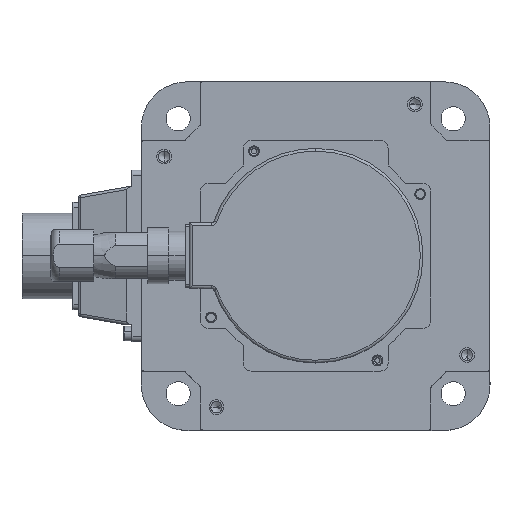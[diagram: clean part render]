
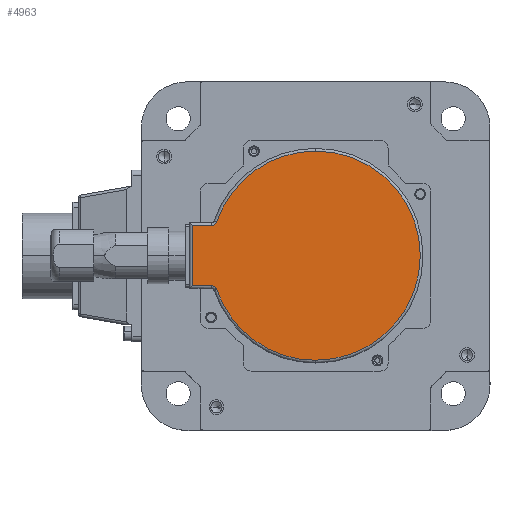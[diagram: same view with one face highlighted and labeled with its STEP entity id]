
A CAD part, top view. The second image highlights one B-rep face of the part: STEP entity #4963.
In plain terms, the highlighted planar face has unit normal (0, 0, 1) as drawn and (-1, 0, 0) by its records, which use the part's own axes.
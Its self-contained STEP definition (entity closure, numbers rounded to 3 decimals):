
#4649 = CARTESIAN_POINT ( 'NONE',  ( -20., 38.8, 11.25 ) ) ;
#4963 = ADVANCED_FACE ( 'NONE', ( #58034 ), #52561, .T. ) ;
#5417 = DIRECTION ( 'NONE',  ( 0., 0., 1. ) ) ;
#6122 = VERTEX_POINT ( 'NONE', #27576 ) ;
#6123 = DIRECTION ( 'NONE',  ( 0., 0., 1. ) ) ;
#6159 = DIRECTION ( 'NONE',  ( -1., 0., 0. ) ) ;
#7020 = CIRCLE ( 'NONE', #50618, 39. ) ;
#8002 = VECTOR ( 'NONE', #54708, 1000. ) ;
#8144 = AXIS2_PLACEMENT_3D ( 'NONE', #13240, #51633, #22024 ) ;
#8506 = AXIS2_PLACEMENT_3D ( 'NONE', #15379, #53784, #24214 ) ;
#11456 = CIRCLE ( 'NONE', #8506, 2. ) ;
#13240 = CARTESIAN_POINT ( 'NONE',  ( -20., 38.8, 13.25 ) ) ;
#13409 = CARTESIAN_POINT ( 'NONE',  ( -20., 0., 39. ) ) ;
#14168 = CARTESIAN_POINT ( 'NONE',  ( -20., 0., 0. ) ) ;
#14291 = AXIS2_PLACEMENT_3D ( 'NONE', #35799, #6159, #44552 ) ;
#15379 = CARTESIAN_POINT ( 'NONE',  ( -20., 38.8, -13.25 ) ) ;
#16278 = CARTESIAN_POINT ( 'NONE',  ( -20., 47., 11.25 ) ) ;
#16417 = ORIENTED_EDGE ( 'NONE', *, *, #59226, .T. ) ;
#17328 = LINE ( 'NONE', #55743, #45800 ) ;
#17504 = ORIENTED_EDGE ( 'NONE', *, *, #56507, .T. ) ;
#17562 = EDGE_CURVE ( 'NONE', #39980, #42586, #17328, .T. ) ;
#18920 = CARTESIAN_POINT ( 'NONE',  ( -20., 38.8, -11.25 ) ) ;
#20131 = EDGE_CURVE ( 'NONE', #49817, #35189, #45950, .T. ) ;
#20282 = CIRCLE ( 'NONE', #8144, 2. ) ;
#22024 = DIRECTION ( 'NONE',  ( 0., 0., 1. ) ) ;
#22571 = CARTESIAN_POINT ( 'NONE',  ( -20., 46., -12.25 ) ) ;
#24214 = DIRECTION ( 'NONE',  ( 0., 0., 1. ) ) ;
#24943 = EDGE_LOOP ( 'NONE', ( #27835, #17504, #54634, #40982, #16417, #44800, #54075, #62585 ) ) ;
#25309 = CARTESIAN_POINT ( 'NONE',  ( -20., 46., -11.25 ) ) ;
#26111 = DIRECTION ( 'NONE',  ( -1., 0., 0. ) ) ;
#26190 = DIRECTION ( 'NONE',  ( 0., -1., 0. ) ) ;
#26488 = VERTEX_POINT ( 'NONE', #13409 ) ;
#27576 = CARTESIAN_POINT ( 'NONE',  ( -20., 36.907, -12.604 ) ) ;
#27835 = ORIENTED_EDGE ( 'NONE', *, *, #20131, .T. ) ;
#34032 = EDGE_CURVE ( 'NONE', #60919, #49817, #20282, .T. ) ;
#35189 = VERTEX_POINT ( 'NONE', #43261 ) ;
#35473 = VERTEX_POINT ( 'NONE', #63058 ) ;
#35771 = DIRECTION ( 'NONE',  ( -1., 0., 0. ) ) ;
#35799 = CARTESIAN_POINT ( 'NONE',  ( -20., 0., 0. ) ) ;
#38179 = DIRECTION ( 'NONE',  ( 0., 0., 1. ) ) ;
#39980 = VERTEX_POINT ( 'NONE', #25309 ) ;
#40982 = ORIENTED_EDGE ( 'NONE', *, *, #53974, .T. ) ;
#42586 = VERTEX_POINT ( 'NONE', #18920 ) ;
#43261 = CARTESIAN_POINT ( 'NONE',  ( -20., 46., 11.25 ) ) ;
#43783 = DIRECTION ( 'NONE',  ( -1., 0., 0. ) ) ;
#44552 = DIRECTION ( 'NONE',  ( 0., 0., 1. ) ) ;
#44800 = ORIENTED_EDGE ( 'NONE', *, *, #61710, .T. ) ;
#45800 = VECTOR ( 'NONE', #26190, 1000. ) ;
#45900 = CIRCLE ( 'NONE', #58081, 39. ) ;
#45950 = LINE ( 'NONE', #16278, #8002 ) ;
#49817 = VERTEX_POINT ( 'NONE', #4649 ) ;
#50618 = AXIS2_PLACEMENT_3D ( 'NONE', #65373, #35771, #6123 ) ;
#50778 = EDGE_CURVE ( 'NONE', #26488, #60919, #7020, .T. ) ;
#51633 = DIRECTION ( 'NONE',  ( 1., 0., 0. ) ) ;
#52200 = LINE ( 'NONE', #22571, #62661 ) ;
#52561 = PLANE ( 'NONE',  #58999 ) ;
#53784 = DIRECTION ( 'NONE',  ( 1., 0., 0. ) ) ;
#53974 = EDGE_CURVE ( 'NONE', #42586, #6122, #11456, .T. ) ;
#54075 = ORIENTED_EDGE ( 'NONE', *, *, #50778, .T. ) ;
#54634 = ORIENTED_EDGE ( 'NONE', *, *, #17562, .T. ) ;
#54708 = DIRECTION ( 'NONE',  ( 0., 1., 0. ) ) ;
#55743 = CARTESIAN_POINT ( 'NONE',  ( -20., 38.8, -11.25 ) ) ;
#56507 = EDGE_CURVE ( 'NONE', #35189, #39980, #52200, .T. ) ;
#58034 = FACE_OUTER_BOUND ( 'NONE', #24943, .T. ) ;
#58081 = AXIS2_PLACEMENT_3D ( 'NONE', #64478, #26111, #38179 ) ;
#58999 = AXIS2_PLACEMENT_3D ( 'NONE', #14168, #43783, #5417 ) ;
#59226 = EDGE_CURVE ( 'NONE', #6122, #35473, #65114, .T. ) ;
#59285 = DIRECTION ( 'NONE',  ( 0., 0., -1. ) ) ;
#60919 = VERTEX_POINT ( 'NONE', #63785 ) ;
#61710 = EDGE_CURVE ( 'NONE', #35473, #26488, #45900, .T. ) ;
#62585 = ORIENTED_EDGE ( 'NONE', *, *, #34032, .T. ) ;
#62661 = VECTOR ( 'NONE', #59285, 1000. ) ;
#63058 = CARTESIAN_POINT ( 'NONE',  ( -20., 0., -39. ) ) ;
#63785 = CARTESIAN_POINT ( 'NONE',  ( -20., 36.907, 12.604 ) ) ;
#64478 = CARTESIAN_POINT ( 'NONE',  ( -20., 0., 0. ) ) ;
#65114 = CIRCLE ( 'NONE', #14291, 39. ) ;
#65373 = CARTESIAN_POINT ( 'NONE',  ( -20., 0., 0. ) ) ;
